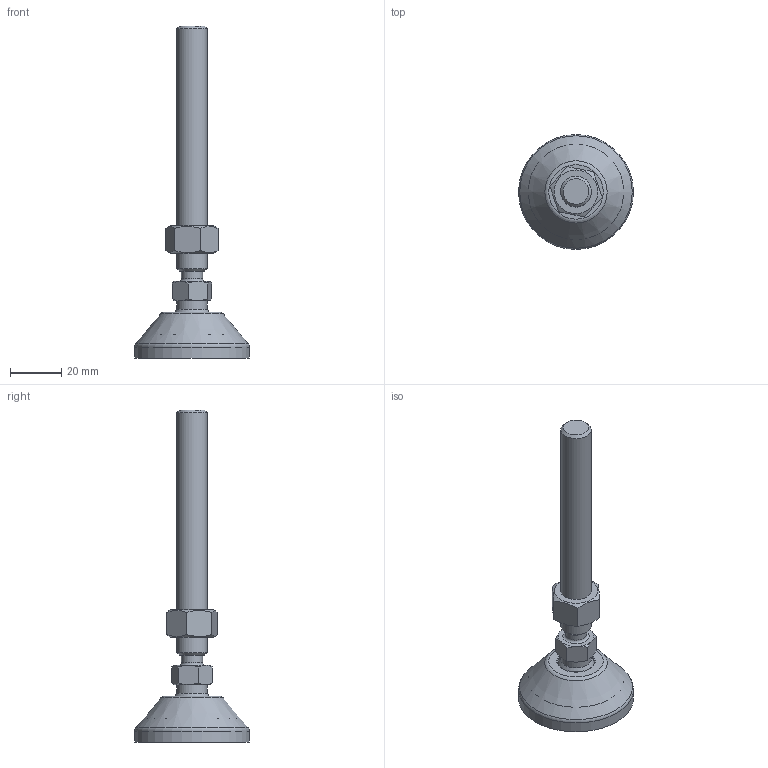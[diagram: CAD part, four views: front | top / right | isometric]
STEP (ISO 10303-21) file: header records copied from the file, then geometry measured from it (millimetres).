
FILE_DESCRIPTION(('STEP AP203'), '1');
FILE_NAME('栖闉罻', '', ('UNSPECIFIED'), ('UNSPECIFIED'), 'C3D Converter', 'C3D Toolkit', '');
FILE_SCHEMA(('CONFIG_CONTROL_DESIGN'));
Length unit declared in the file: millimetre
Products named in the file (4): A00015.1045; A00020.112100
Assembly tree (3 placements, depth 3):
  (unnamed)
    A00015.1045
    A00020.112100
      (unnamed)
Bounding box: 45 x 45 x 130 mm (x, y, z)
Volume: 28342.2 mm3; surface area: 13016.6 mm2
Topology: 3 solids, 3 shells, 141 faces, 380 edges, 250 vertices
Faces by surface type: plane 79, cylinder 26, cone 21, torus 13, sphere 2
Full cylindrical faces by diameter (mm): 8.3 x1, 10.647 x1, 12 x2, 14.3 x1, 15 x2, 15.5 x1, 37.3 x1, 45 x1
Entity records: 7715 total; most frequent: CARTESIAN_POINT 2951, DIRECTION 716, ORIENTED_EDGE 706, EDGE_CURVE 353, AXIS2_PLACEMENT_3D 288, VERTEX_POINT 249, EDGE_LOOP 174, FACE_BOUND 150
